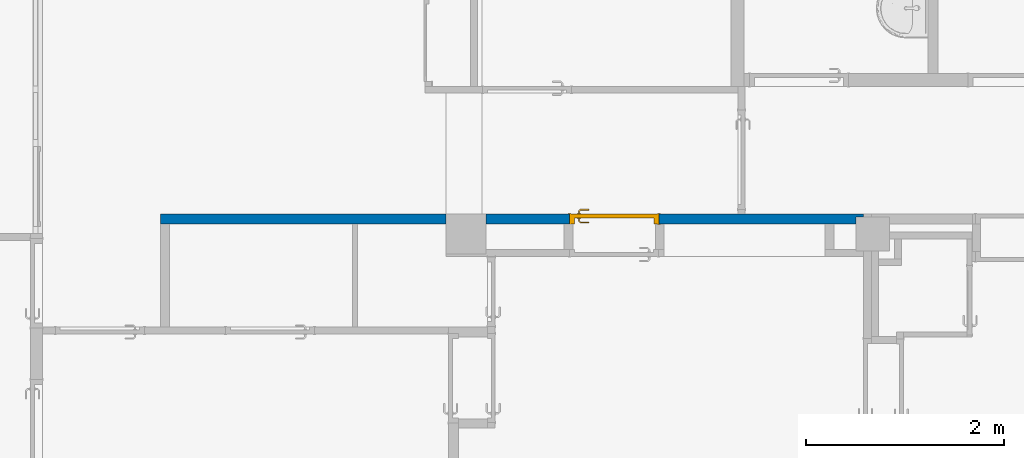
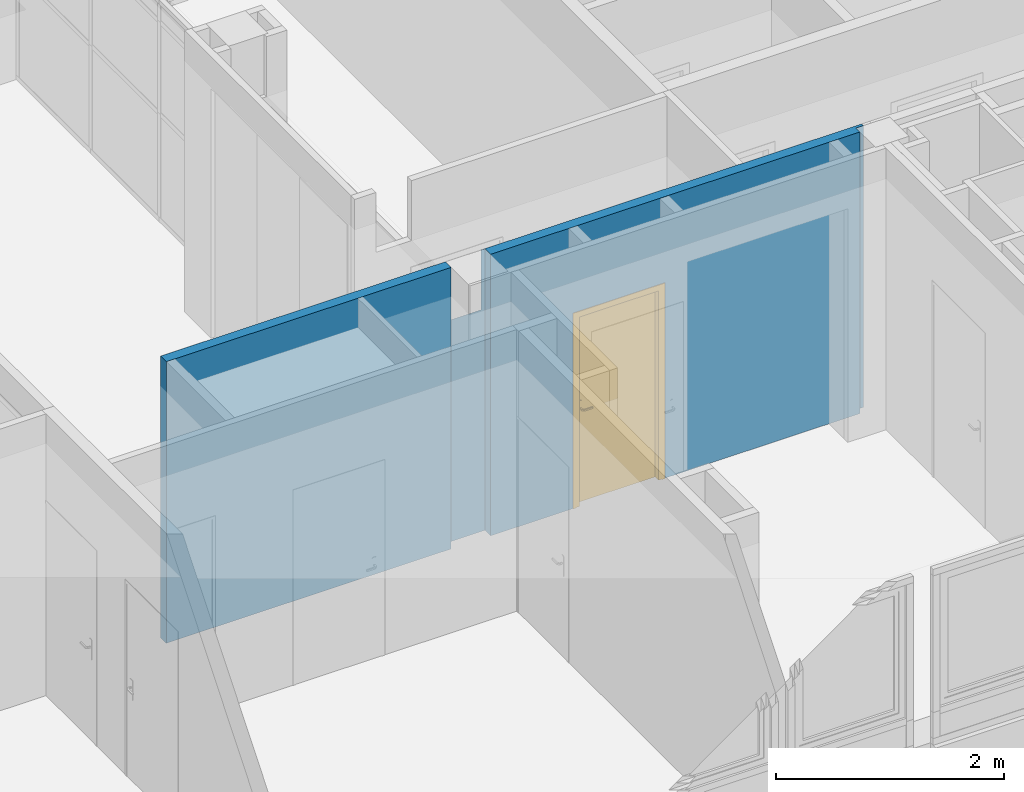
# One storey, part 60 of 97: 1 door, 1 wall, 1 opening.
"""IFC4 building model written with IfcOpenShell, lengths in metres."""

from ifc_helpers import new_model, entity, si_unit, converted_unit, derived_unit, direction, frame, origin, place, context, subcontext, project, spatial, indexed_curve, outline, extrude, polygons, source, transform, mapped, material, material_list, layer, layer_set, constituent, constituent_set, type_object, type_shapes, element, fill, save


model = new_model("IFC4")

# Units and contexts
model_context = context("Model", 3, precision=1e-05, world=origin(), true_north=direction((6.12303176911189e-17, 1.0)))
body_context = subcontext(model_context, "Body", "Model", "MODEL_VIEW")
ifc_project = project(units=[si_unit("LENGTHUNIT", "METRE"), si_unit("AREAUNIT", "SQUARE_METRE"), si_unit("VOLUMEUNIT", "CUBIC_METRE"), converted_unit("PLANEANGLEUNIT", "DEGREE", entity("IfcRatioMeasure", 0.0174532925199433), si_unit("PLANEANGLEUNIT", "RADIAN"), dimensions=[0, 0, 0, 0, 0, 0, 0]), si_unit("MASSUNIT", "GRAM", prefix="KILO"), derived_unit("MASSDENSITYUNIT", [(si_unit("MASSUNIT", "GRAM", prefix="KILO"), 1), (si_unit("LENGTHUNIT", "METRE"), -3)]), derived_unit("MOMENTOFINERTIAUNIT", [(si_unit("LENGTHUNIT", "METRE"), 4)]), si_unit("TIMEUNIT", "SECOND"), si_unit("FREQUENCYUNIT", "HERTZ"), si_unit("THERMODYNAMICTEMPERATUREUNIT", "DEGREE_CELSIUS"), derived_unit("THERMALTRANSMITTANCEUNIT", [(si_unit("MASSUNIT", "GRAM", prefix="KILO"), 1), (si_unit("THERMODYNAMICTEMPERATUREUNIT", "KELVIN"), -1), (si_unit("TIMEUNIT", "SECOND"), -3)]), derived_unit("VOLUMETRICFLOWRATEUNIT", [(si_unit("LENGTHUNIT", "METRE"), 3), (si_unit("TIMEUNIT", "SECOND"), -1)]), si_unit("ELECTRICCURRENTUNIT", "AMPERE"), si_unit("ELECTRICVOLTAGEUNIT", "VOLT"), si_unit("POWERUNIT", "WATT"), si_unit("FORCEUNIT", "NEWTON", prefix="KILO"), si_unit("ILLUMINANCEUNIT", "LUX"), si_unit("LUMINOUSFLUXUNIT", "LUMEN"), si_unit("LUMINOUSINTENSITYUNIT", "CANDELA"), derived_unit("USERDEFINED", [(si_unit("MASSUNIT", "GRAM", prefix="KILO"), -1), (si_unit("LENGTHUNIT", "METRE"), -2), (si_unit("TIMEUNIT", "SECOND"), 3), (si_unit("LUMINOUSFLUXUNIT", "LUMEN"), 1)]), derived_unit("LINEARVELOCITYUNIT", [(si_unit("LENGTHUNIT", "METRE"), 1), (si_unit("TIMEUNIT", "SECOND"), -1)]), si_unit("PRESSUREUNIT", "PASCAL"), derived_unit("USERDEFINED", [(si_unit("LENGTHUNIT", "METRE"), -2), (si_unit("MASSUNIT", "GRAM", prefix="KILO"), 1), (si_unit("TIMEUNIT", "SECOND"), -2)]), derived_unit("LINEARFORCEUNIT", [(si_unit("MASSUNIT", "GRAM", prefix="KILO"), 1), (si_unit("LENGTHUNIT", "METRE"), 1), (si_unit("TIMEUNIT", "SECOND"), -2), (si_unit("LENGTHUNIT", "METRE"), -1)]), derived_unit("PLANARFORCEUNIT", [(si_unit("MASSUNIT", "GRAM", prefix="KILO"), 1), (si_unit("LENGTHUNIT", "METRE"), 1), (si_unit("TIMEUNIT", "SECOND"), -2), (si_unit("LENGTHUNIT", "METRE"), -2)])], contexts=[model_context])

# Site, building, storey
site_placement = place(None, origin())
site = spatial("IfcSite", under=ifc_project, at=site_placement, Name="Default", CompositionType="ELEMENT")
building_placement = place(site_placement, origin())
building = spatial("IfcBuilding", under=site, at=building_placement, Name="HOTEL CONSULAIRE BOULOGNE SUR MER", CompositionType="ELEMENT")
storey_placement = place(building_placement, frame((0.0, 0.0, 3.62152697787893)))
storey = spatial("IfcBuildingStorey", under=building, at=storey_placement, Name="Niveau 1", CompositionType="ELEMENT", Elevation=3.62152697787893)

# Wall, opening, door
ifc_material_1 = material(Name="Mur par défaut", Category="Divers")
ifc_layer = layer(ifc_material_1, 0.1, Name="Mur par défaut", Category="Divers")
ifc_layer_set = layer_set([ifc_layer], Name="Mur de base:Générique - Int. 100 mm")
wall_type = type_object("IfcWallType", Name="Mur de base:Générique - Int. 100 mm", PredefinedType="NOTDEFINED", material=ifc_layer_set)
wall_placement = place(storey_placement, frame((-1.32414453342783, -23.864691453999, 0.0), z_axis=(0.0, 0.0, 1.0), x_axis=(-1.0, 0.0, 0.0)))
wall = element("IfcWall", 1, at=wall_placement, inside=storey, type_object=wall_type, material=ifc_layer_set, Name="Mur de base:Générique - Int. 100 mm", ObjectType="Mur de base:Générique - Int. 100 mm", PredefinedType="NOTDEFINED", context=body_context, shape_type="Tessellation", body=[
    polygons([(2.06275215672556, 0.0500000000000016, 2.075), (2.06275215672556, 0.0500000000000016, 5.41433564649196e-16), (0.387082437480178, 0.0499999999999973, 5.41433564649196e-16), (0.297082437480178, 0.0499999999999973, 5.41433564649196e-16), (0.0746786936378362, 0.0500000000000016, 5.41433564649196e-16), (0.0746786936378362, 0.0500000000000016, 3.0102145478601), (0.297082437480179, 0.0499999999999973, 3.0102145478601), (0.387082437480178, 0.0499999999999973, 3.0102145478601), (2.93175215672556, 0.0499999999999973, 3.0102145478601), (3.02175215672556, 0.0499999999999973, 3.0102145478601), (3.8083841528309, 0.0500000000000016, 3.0102145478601), (3.8083841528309, 0.0500000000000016, 5.41433564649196e-16), (3.02175215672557, 0.0499999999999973, 5.41433564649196e-16), (2.96275215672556, 0.0499999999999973, 5.41433564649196e-16), (2.96275215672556, 0.0499999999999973, 2.075), (6.83097106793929e-16, -0.0187816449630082, 3.0102145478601), (7.89235950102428e-16, -0.0499999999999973, 3.0102145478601), (1.19498830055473, -0.0499999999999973, 3.0102145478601), (1.26498830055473, -0.0499999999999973, 3.0102145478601), (3.8483841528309, -0.0499999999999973, 3.0102145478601), (3.8483841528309, -0.04878164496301, 3.0102145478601), (3.8083841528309, -0.04878164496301, 3.0102145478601), (0.0746786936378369, -0.0187816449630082, 3.0102145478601), (7.08899273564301, -0.0499999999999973, 5.41433564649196e-16), (2.96275215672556, -0.0500000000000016, 5.41433564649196e-16), (3.8083841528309, -0.04878164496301, 5.41433564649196e-16), (4.2083841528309, -0.04878164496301, 5.41433564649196e-16), (4.2083841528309, 0.0500000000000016, 5.41433564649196e-16), (5.1026286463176, 0.0499999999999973, 5.41433564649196e-16), (5.1526286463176, 0.0499999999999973, 5.41433564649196e-16), (6.99899273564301, 0.0500000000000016, 5.41433564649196e-16), (7.08899273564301, 0.0500000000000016, 5.41433564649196e-16), (2.06275215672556, -0.0499999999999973, 5.41433564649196e-16), (2.06275215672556, -0.0499999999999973, 2.075), (2.96275215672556, -0.0500000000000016, 2.075), (7.08899273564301, -0.0499999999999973, 3.0102145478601), (4.2083841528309, -0.0500000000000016, 3.01021454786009), (4.2083841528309, -0.0500000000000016, 2.37021454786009), (3.8483841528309, -0.0499999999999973, 2.37021454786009), (7.89235950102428e-16, -0.0499999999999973, 5.41433564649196e-16), (1.19498830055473, -0.0499999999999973, 5.41433564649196e-16), (1.26498830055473, -0.0499999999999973, 5.41433564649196e-16), (7.08899273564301, 0.0500000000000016, 3.0102145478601), (4.2083841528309, 0.0499999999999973, 3.0102145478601), (5.1026286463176, 0.0500000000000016, 3.0102145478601), (5.1526286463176, 0.0500000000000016, 3.0102145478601), (6.99899273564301, 0.0500000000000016, 3.0102145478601), (4.2083841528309, -0.04878164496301, 3.0102145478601), (9.53813889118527e-16, -0.0187816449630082, 5.41433564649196e-16), (0.0746786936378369, -0.0187816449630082, 5.41433564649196e-16), (3.8483841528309, -0.04878164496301, 2.37021454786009), (4.2083841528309, -0.04878164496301, 2.37021454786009)], [[[15, 1, 2, 3, 4, 5, 6, 7, 8, 9, 10, 11, 12, 13, 14]], [[32, 31, 30, 29, 28, 44, 45, 46, 47, 43]], [[49, 16, 23, 50]], [[22, 21, 51, 52, 27, 26]], [[20, 21, 22, 11, 10, 9, 8, 7, 6, 23, 16, 17, 18, 19]], [[36, 43, 47, 46, 45, 44, 48, 37]], [[52, 51, 39, 38]], [[12, 26, 27, 28, 29, 30, 31, 32, 24, 25, 14, 13]], [[35, 34, 1, 15]], [[4, 3, 2, 33, 42, 41, 40, 49, 50, 5]], [[34, 35, 25, 24, 36, 37, 38, 39, 20, 19, 18, 17, 40, 41, 42, 33]], [[49, 40, 17, 16]], [[25, 35, 15, 14]], [[50, 23, 6, 5]], [[48, 44, 28, 27, 52, 38, 37]], [[34, 33, 2, 1]], [[36, 24, 32, 43]], [[51, 21, 20, 39]], [[26, 12, 11, 22]]], closed=True),
])
opening_placement = place(wall_placement, frame((2.96275215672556, 0.0499999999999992, 0.0)))
opening = element("IfcOpeningElement", 2, at=opening_placement, cuts=wall, Name="Int. Simple:PP (0.83m x 2.04m):1", ObjectType="Opening", PredefinedType="OPENING", context=body_context, shape_type="SweptSolid", body=[
    extrude(outline(indexed_curve([(0.0, 0.9), (0.0, 0.0), (2.075, 0.0), (2.075, 0.9), (0.0, 0.9)], self_intersect=False)), frame((0.0, 0.0, 0.0), z_axis=(0.0, -1.0, 0.0), x_axis=(0.0, 0.0, 1.0)), (0.0, 0.0, 1.0), 0.1),
])
ifc_material_2 = material(Name="Finition Peinture - Blanc satiné", Category="Peinture")
ifc_constituent_1 = constituent(ifc_material_2, Name="Finition Peinture - Blanc satiné", Category="Matériaux")
ifc_material_3 = material(Name="Bois - Panneau de porte", Category="Bois")
ifc_constituent_2 = constituent(ifc_material_3, Name="Bois - Panneau de porte", Category="Matériaux")
ifc_material_4 = material(Name="Bois - Cadre de porte", Category="Bois")
ifc_constituent_3 = constituent(ifc_material_4, Name="Bois - Cadre de porte", Category="Matériaux")
ifc_constituent_set = constituent_set(constituents=[ifc_constituent_1, ifc_constituent_2, ifc_constituent_3], Name="MaterialConstituentSet")
ifc_material_list = material_list([ifc_material_4, ifc_material_3, ifc_material_4, ifc_material_2])
door_type = type_object("IfcDoorType", Name="Int. Simple:PP (0.83m x 2.04m)", OperationType="NOTDEFINED", PredefinedType="DOOR", material=ifc_material_list)
shared_shape = source(origin(), body_context, "Body", "Tessellation", [
    polygons([(0.895000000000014, -0.00500000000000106, 0.870000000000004), (0.895000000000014, -0.00500000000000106, 1.08), (0.885352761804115, -0.00500000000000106, 1.08399601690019), (0.875000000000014, -0.00500000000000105, 1.08535898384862), (0.864647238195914, -0.00500000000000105, 1.08399601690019), (0.855000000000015, -0.00500000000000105, 1.08), (0.855000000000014, -0.00500000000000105, 0.870000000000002), (0.864647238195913, -0.00500000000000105, 0.866003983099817), (0.875000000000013, -0.00500000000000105, 0.86464101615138), (0.885352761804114, -0.00500000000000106, 0.866003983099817), (0.895000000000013, -1.06594733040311e-15, 0.870000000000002), (0.885352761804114, -1.06594733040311e-15, 0.866003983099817), (0.875000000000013, -1.05748743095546e-15, 0.86464101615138), (0.864647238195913, -1.05748743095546e-15, 0.866003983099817), (0.855000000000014, -1.04902753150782e-15, 0.870000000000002), (0.855000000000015, -1.04902753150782e-15, 1.08), (0.864647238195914, -1.05748743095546e-15, 1.08399601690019), (0.875000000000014, -1.05748743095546e-15, 1.08535898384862), (0.885352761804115, -1.06594733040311e-15, 1.08399601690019), (0.895000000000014, -1.06594733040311e-15, 1.08)], [[[1, 2, 3, 4, 5, 6, 7, 8, 9, 10]], [[20, 11, 12, 13, 14, 15, 16, 17, 18, 19]], [[10, 12, 11, 1]], [[9, 13, 12, 10]], [[8, 14, 13, 9]], [[8, 7, 15, 14]], [[15, 7, 6, 16]], [[5, 17, 16, 6]], [[4, 18, 17, 5]], [[3, 19, 18, 4]], [[3, 2, 20, 19]], [[11, 20, 2, 1]]], closed=True),
    polygons([(0.855000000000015, 0.0399999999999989, 1.08), (0.855000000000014, 0.0399999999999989, 0.870000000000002), (0.864647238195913, 0.0399999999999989, 0.866003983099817), (0.875000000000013, 0.0399999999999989, 0.86464101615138), (0.885352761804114, 0.0399999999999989, 0.866003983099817), (0.895000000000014, 0.0399999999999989, 0.870000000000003), (0.895000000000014, 0.0399999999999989, 1.08), (0.885352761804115, 0.0399999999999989, 1.08399601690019), (0.875000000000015, 0.0399999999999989, 1.08535898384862), (0.864647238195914, 0.0399999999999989, 1.08399601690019), (0.855000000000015, 0.0449999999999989, 1.08), (0.864647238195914, 0.0449999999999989, 1.08399601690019), (0.875000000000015, 0.0449999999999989, 1.08535898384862), (0.885352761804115, 0.0449999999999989, 1.08399601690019), (0.895000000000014, 0.0449999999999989, 1.08), (0.895000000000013, 0.0449999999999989, 0.870000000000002), (0.885352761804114, 0.0449999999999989, 0.866003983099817), (0.875000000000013, 0.0449999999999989, 0.86464101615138), (0.864647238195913, 0.0449999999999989, 0.866003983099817), (0.855000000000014, 0.0449999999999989, 0.870000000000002)], [[[6, 7, 8, 9, 10, 1, 2, 3, 4, 5]], [[13, 14, 15, 16, 17, 18, 19, 20, 11, 12]], [[10, 12, 11, 1]], [[9, 13, 12, 10]], [[8, 14, 13, 9]], [[8, 7, 15, 14]], [[16, 15, 7, 6]], [[5, 17, 16, 6]], [[4, 18, 17, 5]], [[3, 19, 18, 4]], [[3, 2, 20, 19]], [[20, 2, 1, 11]]], closed=True),
    polygons([(0.881000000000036, -0.00500000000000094, 1.00699999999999), (0.881000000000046, -0.00500000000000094, 0.992999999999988), (0.877025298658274, -0.00500000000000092, 0.99221955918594), (0.872974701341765, -0.0050000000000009, 0.992219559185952), (0.868999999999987, -0.00500000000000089, 0.993000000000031), (0.868999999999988, -0.00500000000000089, 1.007), (0.872974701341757, -0.0050000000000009, 1.00778044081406), (0.877025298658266, -0.00500000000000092, 1.00778044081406), (0.868999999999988, -0.0276803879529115, 1.007), (0.872974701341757, -0.0293267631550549, 1.00778044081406), (0.877025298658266, -0.0310045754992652, 1.00778044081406), (0.881000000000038, -0.0326509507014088, 1.007), (0.868999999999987, -0.0276803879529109, 0.993000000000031), (0.881000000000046, -0.0326509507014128, 0.992999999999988), (0.877025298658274, -0.0310045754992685, 0.99221955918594), (0.872974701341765, -0.0293267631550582, 0.992219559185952), (0.85765222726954, -0.0390281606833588, 1.007), (0.859298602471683, -0.0430028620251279, 1.00778044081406), (0.860976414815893, -0.0470534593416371, 1.00778044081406), (0.862622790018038, -0.051028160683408, 1.007), (0.857652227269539, -0.0390281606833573, 0.993000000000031), (0.862622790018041, -0.0510281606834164, 0.992999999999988), (0.860976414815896, -0.0470534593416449, 0.99221955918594), (0.859298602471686, -0.0430028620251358, 0.992219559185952), (0.774981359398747, -0.0510281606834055, 1.007), (0.774981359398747, -0.0470534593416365, 1.00778044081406), (0.774981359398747, -0.0430028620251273, 1.00778044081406), (0.774981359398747, -0.0390281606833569, 1.00699999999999), (0.774981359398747, -0.0390281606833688, 0.993000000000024), (0.774981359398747, -0.0430028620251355, 0.992219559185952), (0.774981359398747, -0.0470534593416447, 0.99221955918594), (0.774981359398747, -0.0510281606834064, 0.992999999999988), (0.822692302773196, -0.051028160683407, 1.007), (0.81713998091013, -0.045028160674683, 1.0078786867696), (0.816316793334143, -0.039028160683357, 1.007), (0.822692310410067, -0.0510281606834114, 0.992999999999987), (0.817139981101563, -0.0450281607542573, 0.992121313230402), (0.816316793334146, -0.0390281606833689, 0.993000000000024)], [[[7, 8, 1, 2, 3, 4, 5, 6]], [[17, 21, 38, 29, 28, 35]], [[1, 8, 11, 12]], [[8, 7, 10, 18, 19, 11]], [[7, 6, 9, 10]], [[13, 9, 6, 5]], [[25, 26, 27, 28, 29, 30, 31, 32]], [[4, 16, 13, 5]], [[4, 3, 15, 23, 24, 16]], [[2, 14, 15, 3]], [[12, 14, 2, 1]], [[12, 11, 19, 20]], [[10, 9, 17, 18]], [[21, 17, 9, 13]], [[13, 16, 24, 21]], [[15, 14, 22, 23]], [[20, 22, 14, 12]], [[34, 26, 33]], [[33, 26, 25]], [[33, 20, 19]], [[18, 35, 34]], [[35, 18, 17]], [[28, 27, 35]], [[34, 27, 26]], [[34, 35, 27]], [[34, 33, 19]], [[18, 34, 19]], [[37, 30, 38]], [[31, 37, 36]], [[24, 38, 21]], [[30, 29, 38]], [[31, 36, 32]], [[36, 23, 22]], [[37, 23, 36]], [[37, 24, 23]], [[37, 38, 24]], [[30, 37, 31]], [[22, 20, 33, 25, 32, 36]]], closed=True),
    polygons([(0.868999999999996, 0.0449999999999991, 0.993000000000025), (0.872974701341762, 0.0449999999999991, 0.992219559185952), (0.877025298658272, 0.0449999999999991, 0.99221955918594), (0.881000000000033, 0.044999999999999, 0.992999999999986), (0.881000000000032, 0.044999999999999, 1.007), (0.877025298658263, 0.0449999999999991, 1.00778044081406), (0.872974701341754, 0.0449999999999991, 1.00778044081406), (0.868999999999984, 0.0449999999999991, 1.007), (0.868999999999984, 0.067485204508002, 1.007), (0.868999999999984, 0.0674852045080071, 0.993000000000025), (0.881000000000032, 0.0724557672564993, 1.007), (0.877025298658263, 0.070809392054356, 1.00778044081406), (0.872974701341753, 0.0691315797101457, 1.00778044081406), (0.881000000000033, 0.0724557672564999, 0.992999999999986), (0.872974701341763, 0.0691315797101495, 0.992219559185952), (0.877025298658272, 0.0708093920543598, 0.99221955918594), (0.857514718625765, 0.0789704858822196, 1.007), (0.857514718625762, 0.0789704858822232, 0.993000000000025), (0.862485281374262, 0.0909704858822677, 1.007), (0.860838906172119, 0.0869957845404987, 1.00778044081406), (0.859161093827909, 0.0829451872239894, 1.00778044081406), (0.862485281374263, 0.0909704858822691, 0.992999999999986), (0.859161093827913, 0.0829451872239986, 0.992219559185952), (0.860838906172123, 0.0869957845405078, 0.99221955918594), (0.77495421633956, 0.0789704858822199, 0.993000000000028), (0.77495421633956, 0.0789704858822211, 1.007), (0.77495421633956, 0.0829451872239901, 1.00778044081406), (0.77495421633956, 0.0869957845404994, 1.00778044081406), (0.77495421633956, 0.0909704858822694, 1.007), (0.77495421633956, 0.0909704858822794, 0.992999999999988), (0.77495421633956, 0.086995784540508, 0.99221955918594), (0.77495421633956, 0.0829451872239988, 0.992219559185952), (0.822554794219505, 0.0909704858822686, 1.007), (0.817057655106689, 0.0849704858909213, 1.0078786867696), (0.816234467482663, 0.0789704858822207, 1.007), (0.822554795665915, 0.0909704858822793, 0.992999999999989), (0.817057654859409, 0.0849704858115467, 0.992121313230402), (0.816234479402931, 0.0789704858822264, 0.993000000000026)], [[[2, 3, 4, 5, 6, 7, 8, 1]], [[18, 17, 35, 26, 25, 38]], [[9, 10, 1, 8]], [[27, 28, 29, 30, 31, 32, 25, 26]], [[7, 13, 9, 8]], [[7, 6, 12, 20, 21, 13]], [[5, 11, 12, 6]], [[11, 5, 4, 14]], [[4, 3, 16, 14]], [[3, 2, 15, 23, 24, 16]], [[2, 1, 10, 15]], [[17, 18, 10, 9]], [[9, 13, 21, 17]], [[11, 19, 20, 12]], [[22, 19, 11, 14]], [[14, 16, 24, 22]], [[15, 10, 18, 23]], [[34, 27, 35]], [[28, 34, 33]], [[21, 35, 17]], [[27, 26, 35]], [[28, 33, 29]], [[33, 20, 19]], [[34, 20, 33]], [[34, 21, 20]], [[34, 35, 21]], [[27, 34, 28]], [[19, 22, 36, 30, 29, 33]], [[37, 31, 36]], [[36, 31, 30]], [[36, 22, 24]], [[23, 38, 37]], [[38, 23, 18]], [[25, 32, 38]], [[37, 32, 31]], [[37, 38, 32]], [[37, 36, 24]], [[23, 37, 24]]], closed=True),
    polygons([(0.935000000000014, 0.04, 2.04), (0.935000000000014, 0.04, 0.0), (0.105000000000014, 0.04, 0.0), (0.105000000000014, 0.04, 2.04), (0.935000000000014, 3.38395977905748e-17, 2.04), (0.105000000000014, 3.38395977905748e-17, 2.04), (0.105000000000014, 3.38395977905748e-17, 0.0), (0.935000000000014, 3.38395977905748e-17, 0.0)], [[[3, 4, 1, 2]], [[5, 6, 7, 8]], [[5, 1, 4, 6]], [[6, 4, 3, 7]], [[8, 7, 3, 2]], [[8, 2, 1, 5]]], closed=True),
    polygons([(0.970000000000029, 0.0, 0.0), (0.935000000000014, 0.0, 0.0), (0.935000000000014, 0.040000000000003, 0.0), (0.920000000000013, 0.040000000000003, 0.0), (0.920000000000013, 0.100000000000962, 0.0), (0.970000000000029, 0.100000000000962, 0.0), (0.970000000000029, 0.100000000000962, 2.07500000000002), (0.970000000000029, 0.0, 2.07500000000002), (0.920000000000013, 0.100000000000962, 2.025), (0.120000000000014, 0.100000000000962, 2.025), (0.120000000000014, 0.100000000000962, 6.02669015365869e-24), (0.0699999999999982, 0.100000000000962, 9.23443718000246e-25), (0.0699999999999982, 0.100000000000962, 2.07500000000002), (0.920000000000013, 0.040000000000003, 2.025), (0.935000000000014, 0.040000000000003, 2.04), (0.105000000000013, 0.040000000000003, 2.04), (0.105000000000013, 0.040000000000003, 1.51399294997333e-24), (0.120000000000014, 0.040000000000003, 1.99209609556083e-25), (0.120000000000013, 0.040000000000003, 2.025), (0.935000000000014, 0.0, 2.04), (0.0699999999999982, 0.0, 2.07500000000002), (0.0699999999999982, 0.0, 1.81925185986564e-24), (0.105000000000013, 0.0, 3.40121094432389e-24), (0.105000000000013, 0.0, 2.04)], [[[5, 6, 1, 2, 3, 4]], [[17, 23, 22, 12, 11, 18]], [[19, 10, 9, 14]], [[24, 16, 15, 20]], [[7, 8, 1, 6]], [[18, 11, 10, 19]], [[17, 16, 24, 23]], [[9, 10, 11, 12, 13, 7, 6, 5]], [[14, 9, 5, 4]], [[15, 3, 2, 20]], [[12, 22, 21, 13]], [[19, 14, 4, 3, 15, 16, 17, 18]], [[24, 20, 2, 1, 8, 21, 22, 23]], [[13, 21, 8, 7]]], closed=True),
    polygons([(0.955000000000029, 0.100000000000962, 1.35358391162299e-16), (0.955000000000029, 0.105000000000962, 1.35358391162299e-16), (0.985000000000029, 0.105000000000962, 1.35358391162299e-16), (0.985000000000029, 0.100000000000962, 1.35358391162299e-16), (0.985000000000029, 0.100000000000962, 2.09000000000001), (0.0550000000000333, 0.100000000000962, 2.09000000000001), (0.0550000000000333, 0.100000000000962, -5.44393448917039e-24), (0.0850000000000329, 0.100000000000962, 5.09144898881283e-24), (0.0850000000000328, 0.100000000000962, 2.06000000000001), (0.955000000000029, 0.100000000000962, 2.06000000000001), (0.985000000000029, 0.105000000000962, 2.09000000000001), (0.955000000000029, 0.105000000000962, 2.06000000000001), (0.0850000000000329, 0.105000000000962, 2.06000000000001), (0.0850000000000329, 0.105000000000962, -1.89153776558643e-24), (0.055000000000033, 0.105000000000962, 5.03766794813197e-24), (0.0550000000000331, 0.105000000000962, 2.09000000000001)], [[[2, 3, 4, 1]], [[7, 15, 14, 8]], [[13, 12, 10, 9]], [[9, 10, 1, 4, 5, 6, 7, 8]], [[11, 5, 4, 3]], [[8, 14, 13, 9]], [[12, 13, 14, 15, 16, 11, 3, 2]], [[10, 12, 2, 1]], [[15, 7, 6, 16]], [[16, 6, 5, 11]]], closed=True),
    polygons([(0.955000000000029, -0.005, 1.35358391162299e-16), (0.955000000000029, 0.0, 1.35358391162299e-16), (0.985000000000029, 0.0, 1.35358391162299e-16), (0.985000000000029, -0.005, 1.35358391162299e-16), (0.0850000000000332, -0.005, -1.35358391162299e-16), (0.0550000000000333, -0.005, -1.35358391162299e-16), (0.055000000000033, 0.0, -1.35358391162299e-16), (0.0850000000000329, 0.0, -1.35358391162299e-16), (0.985000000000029, -0.005, 2.09000000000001), (0.0550000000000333, -0.005, 2.09000000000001), (0.0850000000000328, -0.005, 2.06000000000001), (0.955000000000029, -0.005, 2.06000000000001), (0.985000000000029, 0.0, 2.09000000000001), (0.955000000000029, 0.0, 2.06000000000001), (0.0850000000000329, 0.0, 2.06000000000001), (0.0550000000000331, 0.0, 2.09000000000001)], [[[2, 3, 4, 1]], [[6, 7, 8, 5]], [[11, 15, 14, 12]], [[11, 12, 1, 4, 9, 10, 6, 5]], [[13, 9, 4, 3]], [[5, 8, 15, 11]], [[14, 15, 8, 7, 16, 13, 3, 2]], [[12, 14, 2, 1]], [[7, 6, 10, 16]], [[16, 10, 9, 13]]], closed=True),
])
type_shapes(door_type, [shared_shape])
door_placement = place(opening_placement, frame((-0.970000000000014, -0.100000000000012, 0.0)))
door = element("IfcDoor", 3, at=door_placement, inside=storey, type_object=door_type, material=ifc_constituent_set, Name="Int. Simple:PP (0.83m x 2.04m)", ObjectType="Int. Simple:PP (0.83m x 2.04m)", OperationType="NOTDEFINED", OverallHeight=2.075, OverallWidth=0.9, PredefinedType="DOOR", context=body_context, shape_type="MappedRepresentation", body=[
    mapped(shared_shape, transform((0.0, 0.0, 0.0), scale=1.0)),
])
fill(opening, door)

save(model, "model.ifc")
